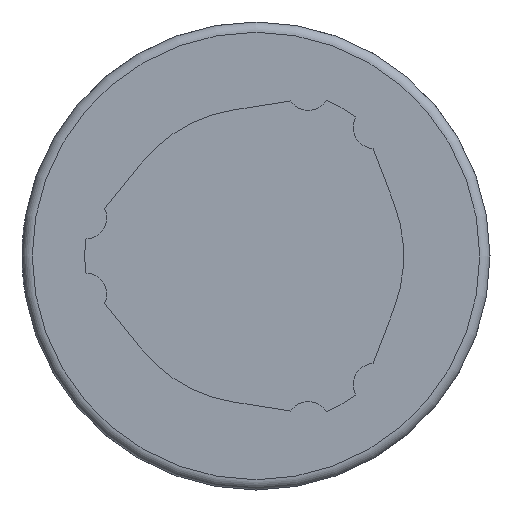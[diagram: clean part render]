
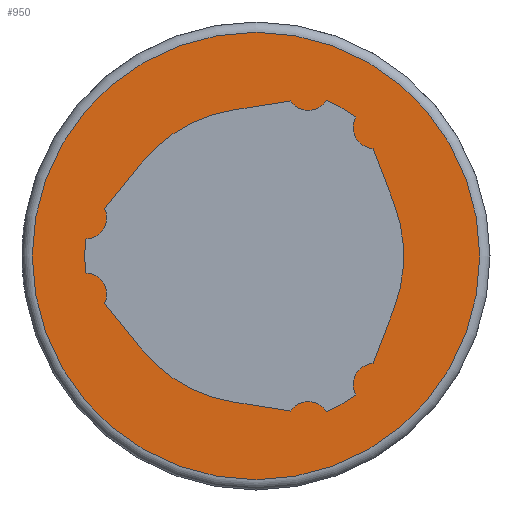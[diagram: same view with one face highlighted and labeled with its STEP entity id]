
A CAD part, left-side view. The second image highlights one B-rep face of the part: STEP entity #950.
In plain terms, the highlighted planar face has unit normal (-1, 0, 0).
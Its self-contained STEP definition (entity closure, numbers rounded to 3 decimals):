
#48=PLANE('',#1057);
#92=LINE('',#1550,#162);
#93=LINE('',#1559,#163);
#94=LINE('',#1563,#164);
#95=LINE('',#1571,#165);
#96=LINE('',#1575,#166);
#97=LINE('',#1583,#167);
#162=VECTOR('',#1255,1000.);
#163=VECTOR('',#1262,1000.);
#164=VECTOR('',#1265,1000.);
#165=VECTOR('',#1272,1000.);
#166=VECTOR('',#1275,1000.);
#167=VECTOR('',#1282,1000.);
#310=ORIENTED_EDGE('',*,*,#528,.F.);
#311=ORIENTED_EDGE('',*,*,#529,.T.);
#312=ORIENTED_EDGE('',*,*,#530,.F.);
#313=ORIENTED_EDGE('',*,*,#531,.T.);
#314=ORIENTED_EDGE('',*,*,#532,.F.);
#315=ORIENTED_EDGE('',*,*,#533,.T.);
#316=ORIENTED_EDGE('',*,*,#534,.T.);
#317=ORIENTED_EDGE('',*,*,#535,.T.);
#318=ORIENTED_EDGE('',*,*,#536,.F.);
#319=ORIENTED_EDGE('',*,*,#537,.T.);
#320=ORIENTED_EDGE('',*,*,#538,.F.);
#321=ORIENTED_EDGE('',*,*,#539,.T.);
#322=ORIENTED_EDGE('',*,*,#540,.T.);
#323=ORIENTED_EDGE('',*,*,#541,.T.);
#324=ORIENTED_EDGE('',*,*,#542,.F.);
#325=ORIENTED_EDGE('',*,*,#543,.T.);
#326=ORIENTED_EDGE('',*,*,#544,.F.);
#327=ORIENTED_EDGE('',*,*,#545,.T.);
#328=ORIENTED_EDGE('',*,*,#546,.T.);
#528=EDGE_CURVE('',#646,#646,#728,.T.);
#529=EDGE_CURVE('',#647,#648,#92,.T.);
#530=EDGE_CURVE('',#649,#648,#729,.T.);
#531=EDGE_CURVE('',#649,#650,#730,.T.);
#532=EDGE_CURVE('',#651,#650,#731,.T.);
#533=EDGE_CURVE('',#651,#652,#93,.T.);
#534=EDGE_CURVE('',#652,#653,#732,.T.);
#535=EDGE_CURVE('',#653,#654,#94,.T.);
#536=EDGE_CURVE('',#655,#654,#733,.T.);
#537=EDGE_CURVE('',#655,#656,#734,.T.);
#538=EDGE_CURVE('',#657,#656,#735,.T.);
#539=EDGE_CURVE('',#657,#658,#95,.T.);
#540=EDGE_CURVE('',#658,#659,#736,.T.);
#541=EDGE_CURVE('',#659,#660,#96,.T.);
#542=EDGE_CURVE('',#661,#660,#737,.T.);
#543=EDGE_CURVE('',#661,#662,#738,.T.);
#544=EDGE_CURVE('',#663,#662,#739,.T.);
#545=EDGE_CURVE('',#663,#664,#97,.T.);
#546=EDGE_CURVE('',#664,#647,#740,.T.);
#646=VERTEX_POINT('',#1549);
#647=VERTEX_POINT('',#1551);
#648=VERTEX_POINT('',#1552);
#649=VERTEX_POINT('',#1554);
#650=VERTEX_POINT('',#1556);
#651=VERTEX_POINT('',#1558);
#652=VERTEX_POINT('',#1560);
#653=VERTEX_POINT('',#1562);
#654=VERTEX_POINT('',#1564);
#655=VERTEX_POINT('',#1566);
#656=VERTEX_POINT('',#1568);
#657=VERTEX_POINT('',#1570);
#658=VERTEX_POINT('',#1572);
#659=VERTEX_POINT('',#1574);
#660=VERTEX_POINT('',#1576);
#661=VERTEX_POINT('',#1578);
#662=VERTEX_POINT('',#1580);
#663=VERTEX_POINT('',#1582);
#664=VERTEX_POINT('',#1584);
#728=CIRCLE('',#1058,76.5);
#729=CIRCLE('',#1059,7.35);
#730=CIRCLE('',#1060,58.5);
#731=CIRCLE('',#1061,7.35);
#732=CIRCLE('',#1062,50.5);
#733=CIRCLE('',#1063,7.35);
#734=CIRCLE('',#1064,58.5);
#735=CIRCLE('',#1065,7.35);
#736=CIRCLE('',#1066,50.5);
#737=CIRCLE('',#1067,7.35);
#738=CIRCLE('',#1068,58.5);
#739=CIRCLE('',#1069,7.35);
#740=CIRCLE('',#1070,50.5);
#783=EDGE_LOOP('',(#310));
#784=EDGE_LOOP('',(#311,#312,#313,#314,#315,#316,#317,#318,#319,#320,#321,
#322,#323,#324,#325,#326,#327,#328));
#851=FACE_BOUND('',#783,.T.);
#852=FACE_BOUND('',#784,.T.);
#950=ADVANCED_FACE('',(#851,#852),#48,.F.);
#1057=AXIS2_PLACEMENT_3D('',#1547,#1251,#1252);
#1058=AXIS2_PLACEMENT_3D('',#1548,#1253,#1254);
#1059=AXIS2_PLACEMENT_3D('',#1553,#1256,#1257);
#1060=AXIS2_PLACEMENT_3D('',#1555,#1258,#1259);
#1061=AXIS2_PLACEMENT_3D('',#1557,#1260,#1261);
#1062=AXIS2_PLACEMENT_3D('',#1561,#1263,#1264);
#1063=AXIS2_PLACEMENT_3D('',#1565,#1266,#1267);
#1064=AXIS2_PLACEMENT_3D('',#1567,#1268,#1269);
#1065=AXIS2_PLACEMENT_3D('',#1569,#1270,#1271);
#1066=AXIS2_PLACEMENT_3D('',#1573,#1273,#1274);
#1067=AXIS2_PLACEMENT_3D('',#1577,#1276,#1277);
#1068=AXIS2_PLACEMENT_3D('',#1579,#1278,#1279);
#1069=AXIS2_PLACEMENT_3D('',#1581,#1280,#1281);
#1070=AXIS2_PLACEMENT_3D('',#1585,#1283,#1284);
#1251=DIRECTION('',(1.,0.,0.));
#1252=DIRECTION('',(0.,0.,-1.));
#1253=DIRECTION('',(1.,0.,0.));
#1254=DIRECTION('',(0.,0.,-1.));
#1255=DIRECTION('',(0.,-0.988,0.156));
#1256=DIRECTION('',(1.,0.,0.));
#1257=DIRECTION('',(0.,0.,-1.));
#1258=DIRECTION('',(1.,0.,0.));
#1259=DIRECTION('',(0.,0.,-1.));
#1260=DIRECTION('',(1.,0.,0.));
#1261=DIRECTION('',(0.,0.,-1.));
#1262=DIRECTION('',(0.,-0.358,-0.934));
#1263=DIRECTION('',(1.,0.,0.));
#1264=DIRECTION('',(0.,0.,-1.));
#1265=DIRECTION('',(0.,0.358,-0.934));
#1266=DIRECTION('',(1.,0.,0.));
#1267=DIRECTION('',(0.,0.,-1.));
#1268=DIRECTION('',(1.,0.,0.));
#1269=DIRECTION('',(0.,0.,-1.));
#1270=DIRECTION('',(1.,0.,0.));
#1271=DIRECTION('',(0.,0.,-1.));
#1272=DIRECTION('',(0.,0.988,0.156));
#1273=DIRECTION('',(1.,0.,0.));
#1274=DIRECTION('',(0.,0.,-1.));
#1275=DIRECTION('',(0.,0.629,0.777));
#1276=DIRECTION('',(1.,0.,0.));
#1277=DIRECTION('',(0.,0.,-1.));
#1278=DIRECTION('',(1.,0.,0.));
#1279=DIRECTION('',(0.,0.,-1.));
#1280=DIRECTION('',(1.,0.,0.));
#1281=DIRECTION('',(0.,0.,-1.));
#1282=DIRECTION('',(0.,-0.629,0.777));
#1283=DIRECTION('',(1.,0.,0.));
#1284=DIRECTION('',(0.,0.,-1.));
#1547=CARTESIAN_POINT('',(0.,0.,0.));
#1548=CARTESIAN_POINT('',(0.,0.,0.));
#1549=CARTESIAN_POINT('',(0.,0.,-76.5));
#1550=CARTESIAN_POINT('',(0.,7.9,49.878));
#1551=CARTESIAN_POINT('',(0.,7.9,49.878));
#1552=CARTESIAN_POINT('',(0.,-11.766,52.993));
#1553=CARTESIAN_POINT('',(0.,-17.838,57.135));
#1554=CARTESIAN_POINT('',(0.,-24.109,53.301));
#1555=CARTESIAN_POINT('',(0.,0.,0.));
#1556=CARTESIAN_POINT('',(0.,-34.106,47.53));
#1557=CARTESIAN_POINT('',(0.,-40.561,44.016));
#1558=CARTESIAN_POINT('',(0.,-40.01,36.686));
#1559=CARTESIAN_POINT('',(0.,-40.01,36.686));
#1560=CARTESIAN_POINT('',(0.,-47.146,18.098));
#1561=CARTESIAN_POINT('',(0.,0.,0.));
#1562=CARTESIAN_POINT('',(0.,-47.146,-18.098));
#1563=CARTESIAN_POINT('',(0.,-47.146,-18.098));
#1564=CARTESIAN_POINT('',(0.,-40.01,-36.686));
#1565=CARTESIAN_POINT('',(0.,-40.561,-44.016));
#1566=CARTESIAN_POINT('',(0.,-34.106,-47.53));
#1567=CARTESIAN_POINT('',(0.,0.,0.));
#1568=CARTESIAN_POINT('',(0.,-24.109,-53.301));
#1569=CARTESIAN_POINT('',(0.,-17.838,-57.135));
#1570=CARTESIAN_POINT('',(0.,-11.766,-52.993));
#1571=CARTESIAN_POINT('',(0.,-11.766,-52.993));
#1572=CARTESIAN_POINT('',(0.,7.9,-49.878));
#1573=CARTESIAN_POINT('',(0.,0.,0.));
#1574=CARTESIAN_POINT('',(0.,39.246,-31.781));
#1575=CARTESIAN_POINT('',(0.,39.246,-31.781));
#1576=CARTESIAN_POINT('',(0.,51.776,-16.307));
#1577=CARTESIAN_POINT('',(0.,58.399,-13.119));
#1578=CARTESIAN_POINT('',(0.,58.215,-5.771));
#1579=CARTESIAN_POINT('',(0.,0.,0.));
#1580=CARTESIAN_POINT('',(0.,58.215,5.771));
#1581=CARTESIAN_POINT('',(0.,58.399,13.119));
#1582=CARTESIAN_POINT('',(0.,51.776,16.307));
#1583=CARTESIAN_POINT('',(0.,51.776,16.307));
#1584=CARTESIAN_POINT('',(0.,39.246,31.781));
#1585=CARTESIAN_POINT('',(0.,0.,0.));
